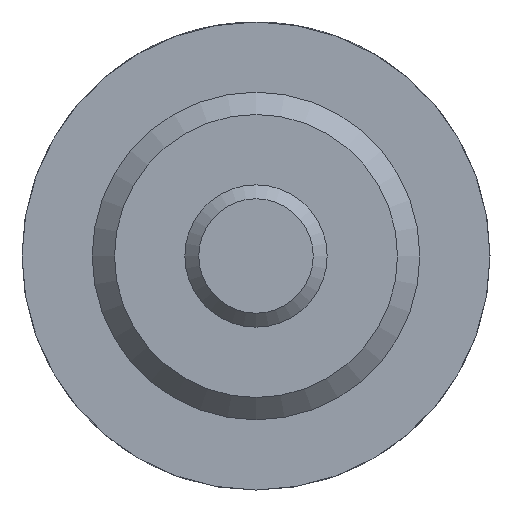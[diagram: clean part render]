
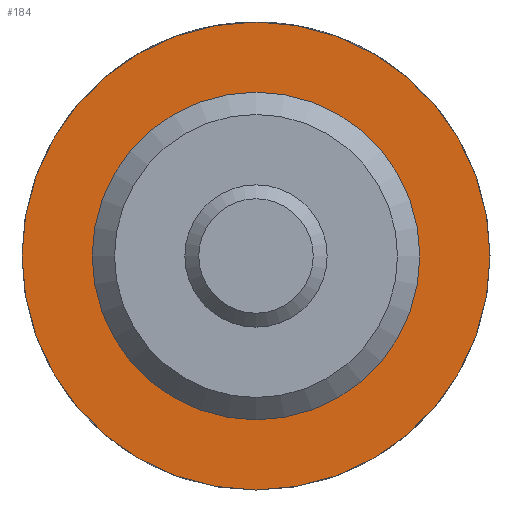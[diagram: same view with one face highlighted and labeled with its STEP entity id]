
A CAD part, left-side view. The second image highlights one B-rep face of the part: STEP entity #184.
In plain terms, the highlighted planar face has unit normal (-1, 0, 0).
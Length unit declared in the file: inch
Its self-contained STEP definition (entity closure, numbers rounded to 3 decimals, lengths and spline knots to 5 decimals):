
#184 = ADVANCED_FACE( '', ( #375, #376 ), #377, .F. );
#375 = FACE_OUTER_BOUND( '', #551, .T. );
#376 = FACE_BOUND( '', #552, .T. );
#377 = PLANE( '', #553 );
#551 = EDGE_LOOP( '', ( #818 ) );
#552 = EDGE_LOOP( '', ( #819 ) );
#553 = AXIS2_PLACEMENT_3D( '', #820, #821, #822 );
#818 = ORIENTED_EDGE( '', *, *, #920, .F. );
#819 = ORIENTED_EDGE( '', *, *, #876, .T. );
#820 = CARTESIAN_POINT( '', ( 0.375, 0.2185, 0. ) );
#821 = DIRECTION( '', ( 1., 0., 0. ) );
#822 = DIRECTION( '', ( 0., 0., -1. ) );
#876 = EDGE_CURVE( '', #994, #994, #995, .T. );
#920 = EDGE_CURVE( '', #1058, #1058, #1059, .T. );
#994 = VERTEX_POINT( '', #1217 );
#995 = CIRCLE( '', #1218, 0.2185 );
#1058 = VERTEX_POINT( '', #1352 );
#1059 = CIRCLE( '', #1353, 0.3125 );
#1217 = CARTESIAN_POINT( '', ( 0.375, 0., -0.2185 ) );
#1218 = AXIS2_PLACEMENT_3D( '', #1427, #1428, #1429 );
#1352 = CARTESIAN_POINT( '', ( 0.375, 0., -0.3125 ) );
#1353 = AXIS2_PLACEMENT_3D( '', #1486, #1487, #1488 );
#1427 = CARTESIAN_POINT( '', ( 0.375, 0., 0. ) );
#1428 = DIRECTION( '', ( 1., 0., 0. ) );
#1429 = DIRECTION( '', ( 0., 0., -1. ) );
#1486 = CARTESIAN_POINT( '', ( 0.375, 0., 0. ) );
#1487 = DIRECTION( '', ( 1., 0., 0. ) );
#1488 = DIRECTION( '', ( 0., 0., -1. ) );
